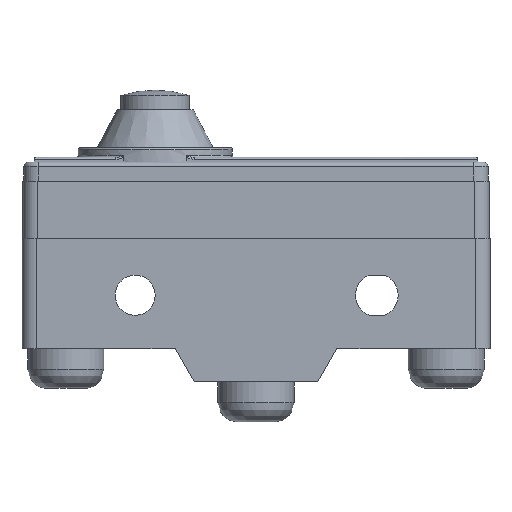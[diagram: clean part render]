
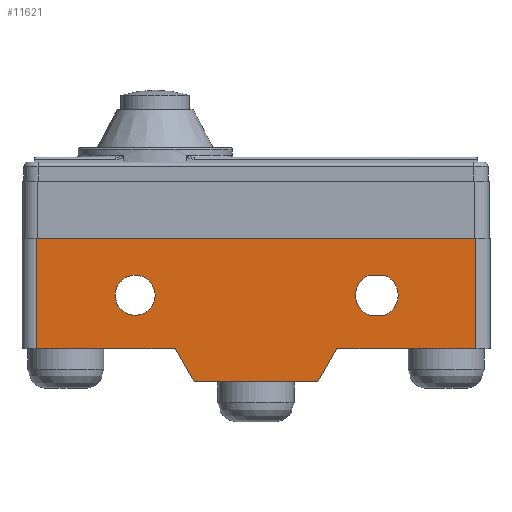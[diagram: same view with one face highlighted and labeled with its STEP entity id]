
A CAD part, left-side view. The second image highlights one B-rep face of the part: STEP entity #11621.
In plain terms, the highlighted planar face has unit normal (-1, 0, 0).
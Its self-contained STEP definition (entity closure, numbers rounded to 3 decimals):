
#1359=FACE_BOUND('',#2405,.T.);
#1360=FACE_BOUND('',#2406,.T.);
#1416=PLANE('',#12277);
#1758=FACE_OUTER_BOUND('',#2404,.T.);
#2404=EDGE_LOOP('',(#8266,#8267,#8268,#8269,#8270,#8271,#8272,#8273));
#2405=EDGE_LOOP('',(#8274));
#2406=EDGE_LOOP('',(#8275,#8276,#8277,#8278));
#3095=LINE('',#14756,#4156);
#3121=LINE('',#14902,#4182);
#3140=LINE('',#15062,#4201);
#3142=LINE('',#15066,#4203);
#3143=LINE('',#15067,#4204);
#3144=LINE('',#15069,#4205);
#3145=LINE('',#15071,#4206);
#3146=LINE('',#15072,#4207);
#3147=LINE('',#15077,#4208);
#3148=LINE('',#15081,#4209);
#4156=VECTOR('',#12747,14.6);
#4182=VECTOR('',#12793,14.6);
#4201=VECTOR('',#12816,11.6);
#4203=VECTOR('',#12820,46.2);
#4204=VECTOR('',#12821,11.6);
#4205=VECTOR('',#12822,4.031);
#4206=VECTOR('',#12823,13.);
#4207=VECTOR('',#12824,4.031);
#4208=VECTOR('',#12827,1.616);
#4209=VECTOR('',#12830,1.616);
#5223=CIRCLE('',#12278,2.1);
#5224=CIRCLE('',#12279,2.25);
#5225=CIRCLE('',#12280,2.25);
#5307=VERTEX_POINT('',#14753);
#5308=VERTEX_POINT('',#14755);
#5353=VERTEX_POINT('',#14899);
#5354=VERTEX_POINT('',#14901);
#5397=VERTEX_POINT('',#15060);
#5398=VERTEX_POINT('',#15065);
#5399=VERTEX_POINT('',#15068);
#5400=VERTEX_POINT('',#15070);
#5401=VERTEX_POINT('',#15073);
#5402=VERTEX_POINT('',#15075);
#5403=VERTEX_POINT('',#15076);
#5404=VERTEX_POINT('',#15078);
#5405=VERTEX_POINT('',#15080);
#6451=EDGE_CURVE('',#5308,#5307,#3095,.T.);
#6500=EDGE_CURVE('',#5354,#5353,#3121,.T.);
#6544=EDGE_CURVE('',#5397,#5353,#3140,.T.);
#6546=EDGE_CURVE('',#5397,#5398,#3142,.T.);
#6547=EDGE_CURVE('',#5308,#5398,#3143,.T.);
#6548=EDGE_CURVE('',#5307,#5399,#3144,.T.);
#6549=EDGE_CURVE('',#5399,#5400,#3145,.T.);
#6550=EDGE_CURVE('',#5400,#5354,#3146,.T.);
#6551=EDGE_CURVE('',#5401,#5401,#5223,.T.);
#6552=EDGE_CURVE('',#5402,#5403,#3147,.T.);
#6553=EDGE_CURVE('',#5403,#5404,#5224,.T.);
#6554=EDGE_CURVE('',#5404,#5405,#3148,.T.);
#6555=EDGE_CURVE('',#5405,#5402,#5225,.T.);
#8266=ORIENTED_EDGE('',*,*,#6544,.F.);
#8267=ORIENTED_EDGE('',*,*,#6546,.T.);
#8268=ORIENTED_EDGE('',*,*,#6547,.F.);
#8269=ORIENTED_EDGE('',*,*,#6451,.T.);
#8270=ORIENTED_EDGE('',*,*,#6548,.T.);
#8271=ORIENTED_EDGE('',*,*,#6549,.T.);
#8272=ORIENTED_EDGE('',*,*,#6550,.T.);
#8273=ORIENTED_EDGE('',*,*,#6500,.T.);
#8274=ORIENTED_EDGE('',*,*,#6551,.T.);
#8275=ORIENTED_EDGE('',*,*,#6552,.T.);
#8276=ORIENTED_EDGE('',*,*,#6553,.T.);
#8277=ORIENTED_EDGE('',*,*,#6554,.T.);
#8278=ORIENTED_EDGE('',*,*,#6555,.T.);
#11621=ADVANCED_FACE('',(#1758,#1359,#1360),#1416,.T.);
#12277=AXIS2_PLACEMENT_3D('',#15064,#12818,#12819);
#12278=AXIS2_PLACEMENT_3D('',#15074,#12825,#12826);
#12279=AXIS2_PLACEMENT_3D('',#15079,#12828,#12829);
#12280=AXIS2_PLACEMENT_3D('',#15082,#12831,#12832);
#12747=DIRECTION('',(0.,-1.,0.));
#12793=DIRECTION('',(0.,-1.,0.));
#12816=DIRECTION('',(0.,0.,-1.));
#12818=DIRECTION('center_axis',(-1.,0.,0.));
#12819=DIRECTION('ref_axis',(0.,0.,1.));
#12820=DIRECTION('',(0.,1.,0.));
#12821=DIRECTION('',(0.,0.,1.));
#12822=DIRECTION('',(0.,-0.496,-0.868));
#12823=DIRECTION('',(0.,-1.,0.));
#12824=DIRECTION('',(0.,-0.496,0.868));
#12825=DIRECTION('center_axis',(1.,0.,0.));
#12826=DIRECTION('ref_axis',(0.,0.,1.));
#12827=DIRECTION('',(0.,-1.,0.));
#12828=DIRECTION('center_axis',(1.,0.,0.));
#12829=DIRECTION('ref_axis',(0.,-0.359,0.933));
#12830=DIRECTION('',(0.,1.,0.));
#12831=DIRECTION('center_axis',(1.,0.,0.));
#12832=DIRECTION('ref_axis',(0.,0.359,-0.933));
#14753=CARTESIAN_POINT('',(-8.75,8.5,3.5));
#14755=CARTESIAN_POINT('',(-8.75,23.1,3.5));
#14756=CARTESIAN_POINT('',(-8.75,4.25,3.5));
#14899=CARTESIAN_POINT('',(-8.75,-23.1,3.5));
#14901=CARTESIAN_POINT('',(-8.75,-8.5,3.5));
#14902=CARTESIAN_POINT('',(-8.75,-12.3,3.5));
#15060=CARTESIAN_POINT('',(-8.75,-23.1,15.1));
#15062=CARTESIAN_POINT('',(-8.75,-23.1,11.325));
#15064=CARTESIAN_POINT('Origin',(-8.75,0.,7.55));
#15065=CARTESIAN_POINT('',(-8.75,23.1,15.1));
#15066=CARTESIAN_POINT('',(-8.75,-24.6,15.1));
#15067=CARTESIAN_POINT('',(-8.75,23.1,3.775));
#15068=CARTESIAN_POINT('',(-8.75,6.5,0.));
#15069=CARTESIAN_POINT('',(-8.75,7.326,1.446));
#15070=CARTESIAN_POINT('',(-8.75,-6.5,0.));
#15071=CARTESIAN_POINT('',(-8.75,24.6,0.));
#15072=CARTESIAN_POINT('',(-8.75,-8.326,3.196));
#15073=CARTESIAN_POINT('',(-8.75,12.7,7.));
#15074=CARTESIAN_POINT('Origin',(-8.75,12.7,9.1));
#15075=CARTESIAN_POINT('',(-8.75,-11.892,11.2));
#15076=CARTESIAN_POINT('',(-8.75,-13.508,11.2));
#15077=CARTESIAN_POINT('',(-8.75,-6.754,11.2));
#15078=CARTESIAN_POINT('',(-8.75,-13.508,7.));
#15079=CARTESIAN_POINT('Origin',(-8.75,-12.7,9.1));
#15080=CARTESIAN_POINT('',(-8.75,-11.892,7.));
#15081=CARTESIAN_POINT('',(-8.75,-5.946,7.));
#15082=CARTESIAN_POINT('Origin',(-8.75,-12.7,9.1));
